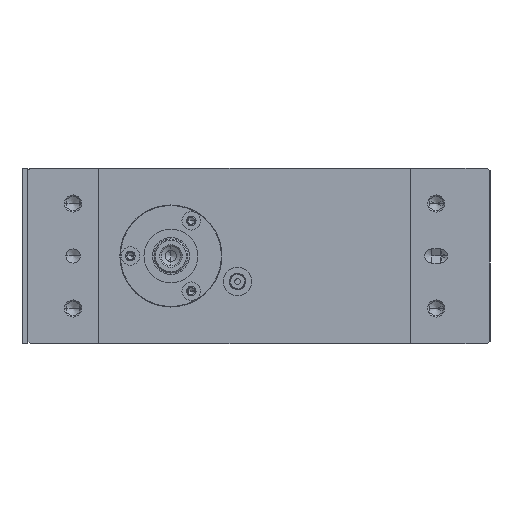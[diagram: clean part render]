
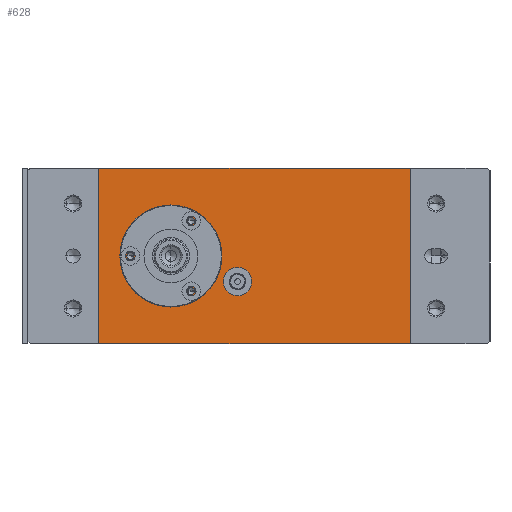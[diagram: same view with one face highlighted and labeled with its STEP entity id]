
A CAD part, left-side view. The second image highlights one B-rep face of the part: STEP entity #628.
In plain terms, the highlighted planar face has unit normal (-1, 0, 0) as drawn and (0, 0, 1) by its records, which use the part's own axes.
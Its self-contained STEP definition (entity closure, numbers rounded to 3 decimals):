
#302 = EDGE_CURVE ( 'NONE', #14896, #17192, #36362, .T. ) ;
#628 = ADVANCED_FACE ( 'NONE', ( #29366, #19516, #38304, #32899, #32497, #16833 ), #4283, .T. ) ;
#939 = CARTESIAN_POINT ( 'NONE',  ( -54.5, -11., -0.5 ) ) ;
#1182 = DIRECTION ( 'NONE',  ( 1., 0., 0. ) ) ;
#1550 = CARTESIAN_POINT ( 'NONE',  ( 30., -42., -0.5 ) ) ;
#1765 = VECTOR ( 'NONE', #26178, 1000. ) ;
#2152 = EDGE_CURVE ( 'NONE', #13228, #17721, #28742, .T. ) ;
#2585 = CARTESIAN_POINT ( 'NONE',  ( -67.25, -11., -0.5 ) ) ;
#3062 = EDGE_CURVE ( 'NONE', #40017, #21393, #21184, .T. ) ;
#3082 = CARTESIAN_POINT ( 'NONE',  ( -46.1, 1.384, -0.5 ) ) ;
#3098 = ORIENTED_EDGE ( 'NONE', *, *, #18748, .T. ) ;
#3479 = CARTESIAN_POINT ( 'NONE',  ( -80., -42., -0.5 ) ) ;
#3872 = DIRECTION ( 'NONE',  ( 0., 0., -1. ) ) ;
#4283 = PLANE ( 'NONE',  #34398 ) ;
#4522 = VERTEX_POINT ( 'NONE', #4665 ) ;
#4665 = CARTESIAN_POINT ( 'NONE',  ( 30., 20., -0.5 ) ) ;
#4681 = EDGE_CURVE ( 'NONE', #39959, #40017, #37221, .T. ) ;
#4689 = DIRECTION ( 'NONE',  ( 0., 0., 1. ) ) ;
#4771 = VERTEX_POINT ( 'NONE', #24403 ) ;
#5940 = DIRECTION ( 'NONE',  ( 1., 0., 0. ) ) ;
#5997 = EDGE_LOOP ( 'NONE', ( #16957, #32077 ) ) ;
#6005 = AXIS2_PLACEMENT_3D ( 'NONE', #33744, #9231, #5940 ) ;
#6201 = EDGE_CURVE ( 'NONE', #21393, #4522, #13458, .T. ) ;
#8450 = DIRECTION ( 'NONE',  ( 0., 0., -1. ) ) ;
#8765 = CARTESIAN_POINT ( 'NONE',  ( -68.8, -11., -0.5 ) ) ;
#8774 = CARTESIAN_POINT ( 'NONE',  ( -47.35, 1.384, -0.5 ) ) ;
#8905 = VERTEX_POINT ( 'NONE', #2585 ) ;
#9231 = DIRECTION ( 'NONE',  ( 0., 0., -1. ) ) ;
#9690 = EDGE_LOOP ( 'NONE', ( #30859, #3098 ) ) ;
#9784 = EDGE_CURVE ( 'NONE', #10659, #8905, #22693, .T. ) ;
#9917 = DIRECTION ( 'NONE',  ( 1., 0., 0. ) ) ;
#9987 = CARTESIAN_POINT ( 'NONE',  ( 30., 20., -0.5 ) ) ;
#10306 = CARTESIAN_POINT ( 'NONE',  ( -68.8, -11., -0.5 ) ) ;
#10659 = VERTEX_POINT ( 'NONE', #15090 ) ;
#11586 = ORIENTED_EDGE ( 'NONE', *, *, #19024, .T. ) ;
#11809 = VERTEX_POINT ( 'NONE', #18173 ) ;
#11965 = ORIENTED_EDGE ( 'NONE', *, *, #3062, .T. ) ;
#13118 = CARTESIAN_POINT ( 'NONE',  ( -31., -20., -0.5 ) ) ;
#13228 = VERTEX_POINT ( 'NONE', #31392 ) ;
#13458 = LINE ( 'NONE', #9987, #15196 ) ;
#13829 = EDGE_CURVE ( 'NONE', #8905, #10659, #31650, .T. ) ;
#14426 = EDGE_LOOP ( 'NONE', ( #21179, #11965, #17174, #28263 ) ) ;
#14839 = EDGE_CURVE ( 'NONE', #37891, #22232, #30971, .T. ) ;
#14896 = VERTEX_POINT ( 'NONE', #28332 ) ;
#14921 = DIRECTION ( 'NONE',  ( 0., 0., -1. ) ) ;
#15090 = CARTESIAN_POINT ( 'NONE',  ( -41.75, -11., -0.5 ) ) ;
#15196 = VECTOR ( 'NONE', #31381, 1000. ) ;
#15501 = CIRCLE ( 'NONE', #25343, 1.25 ) ;
#15574 = VECTOR ( 'NONE', #20972, 1000. ) ;
#15723 = VECTOR ( 'NONE', #18235, 1000. ) ;
#15829 = ORIENTED_EDGE ( 'NONE', *, *, #14839, .T. ) ;
#15950 = AXIS2_PLACEMENT_3D ( 'NONE', #10306, #16687, #9917 ) ;
#16115 = AXIS2_PLACEMENT_3D ( 'NONE', #37396, #24173, #33675 ) ;
#16442 = CARTESIAN_POINT ( 'NONE',  ( 0., 0., -0.5 ) ) ;
#16687 = DIRECTION ( 'NONE',  ( 0., 0., -1. ) ) ;
#16833 = FACE_BOUND ( 'NONE', #26023, .T. ) ;
#16957 = ORIENTED_EDGE ( 'NONE', *, *, #29194, .T. ) ;
#17174 = ORIENTED_EDGE ( 'NONE', *, *, #6201, .T. ) ;
#17192 = VERTEX_POINT ( 'NONE', #32240 ) ;
#17679 = CARTESIAN_POINT ( 'NONE',  ( -80., -42., -0.5 ) ) ;
#17721 = VERTEX_POINT ( 'NONE', #25373 ) ;
#18078 = CIRCLE ( 'NONE', #16115, 1.25 ) ;
#18083 = AXIS2_PLACEMENT_3D ( 'NONE', #24635, #27100, #34158 ) ;
#18173 = CARTESIAN_POINT ( 'NONE',  ( -46.1, -23.384, -0.5 ) ) ;
#18235 = DIRECTION ( 'NONE',  ( 0., -1., 0. ) ) ;
#18237 = CIRCLE ( 'NONE', #34717, 1.25 ) ;
#18748 = EDGE_CURVE ( 'NONE', #4771, #11809, #28573, .T. ) ;
#19024 = EDGE_CURVE ( 'NONE', #17192, #14896, #15501, .T. ) ;
#19516 = FACE_OUTER_BOUND ( 'NONE', #14426, .T. ) ;
#20077 = DIRECTION ( 'NONE',  ( 1., 0., 0. ) ) ;
#20453 = EDGE_CURVE ( 'NONE', #4522, #39959, #39623, .T. ) ;
#20972 = DIRECTION ( 'NONE',  ( 1., 0., 0. ) ) ;
#20992 = DIRECTION ( 'NONE',  ( 1., 0., 0. ) ) ;
#21179 = ORIENTED_EDGE ( 'NONE', *, *, #4681, .T. ) ;
#21184 = LINE ( 'NONE', #17679, #15574 ) ;
#21284 = ORIENTED_EDGE ( 'NONE', *, *, #35243, .T. ) ;
#21371 = AXIS2_PLACEMENT_3D ( 'NONE', #33471, #39478, #20077 ) ;
#21393 = VERTEX_POINT ( 'NONE', #1550 ) ;
#22232 = VERTEX_POINT ( 'NONE', #39584 ) ;
#22693 = CIRCLE ( 'NONE', #18083, 12.75 ) ;
#23173 = DIRECTION ( 'NONE',  ( 1., 0., 0. ) ) ;
#24173 = DIRECTION ( 'NONE',  ( 0., 0., -1. ) ) ;
#24403 = CARTESIAN_POINT ( 'NONE',  ( -48.6, -23.384, -0.5 ) ) ;
#24635 = CARTESIAN_POINT ( 'NONE',  ( -54.5, -11., -0.5 ) ) ;
#25343 = AXIS2_PLACEMENT_3D ( 'NONE', #8765, #14921, #30980 ) ;
#25373 = CARTESIAN_POINT ( 'NONE',  ( -26., -20., -0.5 ) ) ;
#26023 = EDGE_LOOP ( 'NONE', ( #11586, #35006 ) ) ;
#26178 = DIRECTION ( 'NONE',  ( -1., 0., 0. ) ) ;
#26775 = CARTESIAN_POINT ( 'NONE',  ( -80., 20., -0.5 ) ) ;
#27100 = DIRECTION ( 'NONE',  ( 0., 0., -1. ) ) ;
#27336 = CARTESIAN_POINT ( 'NONE',  ( -31., -20., -0.5 ) ) ;
#28263 = ORIENTED_EDGE ( 'NONE', *, *, #20453, .T. ) ;
#28305 = EDGE_CURVE ( 'NONE', #11809, #4771, #18078, .T. ) ;
#28332 = CARTESIAN_POINT ( 'NONE',  ( -70.05, -11., -0.5 ) ) ;
#28573 = CIRCLE ( 'NONE', #21371, 1.25 ) ;
#28643 = CIRCLE ( 'NONE', #37237, 5. ) ;
#28742 = CIRCLE ( 'NONE', #30720, 5. ) ;
#29194 = EDGE_CURVE ( 'NONE', #17721, #13228, #28643, .T. ) ;
#29366 = FACE_BOUND ( 'NONE', #31117, .T. ) ;
#30562 = DIRECTION ( 'NONE',  ( 0., 0., -1. ) ) ;
#30720 = AXIS2_PLACEMENT_3D ( 'NONE', #13118, #3872, #38695 ) ;
#30859 = ORIENTED_EDGE ( 'NONE', *, *, #28305, .T. ) ;
#30971 = CIRCLE ( 'NONE', #6005, 1.25 ) ;
#30980 = DIRECTION ( 'NONE',  ( 1., 0., 0. ) ) ;
#31117 = EDGE_LOOP ( 'NONE', ( #32533, #32887 ) ) ;
#31381 = DIRECTION ( 'NONE',  ( 0., 1., 0. ) ) ;
#31392 = CARTESIAN_POINT ( 'NONE',  ( -36., -20., -0.5 ) ) ;
#31650 = CIRCLE ( 'NONE', #40262, 12.75 ) ;
#32077 = ORIENTED_EDGE ( 'NONE', *, *, #2152, .T. ) ;
#32240 = CARTESIAN_POINT ( 'NONE',  ( -67.55, -11., -0.5 ) ) ;
#32497 = FACE_BOUND ( 'NONE', #34724, .T. ) ;
#32533 = ORIENTED_EDGE ( 'NONE', *, *, #9784, .T. ) ;
#32887 = ORIENTED_EDGE ( 'NONE', *, *, #13829, .T. ) ;
#32899 = FACE_BOUND ( 'NONE', #9690, .T. ) ;
#33069 = DIRECTION ( 'NONE',  ( 1., 0., 0. ) ) ;
#33471 = CARTESIAN_POINT ( 'NONE',  ( -47.35, -23.384, -0.5 ) ) ;
#33675 = DIRECTION ( 'NONE',  ( 1., 0., 0. ) ) ;
#33744 = CARTESIAN_POINT ( 'NONE',  ( -47.35, 1.384, -0.5 ) ) ;
#34158 = DIRECTION ( 'NONE',  ( 1., 0., 0. ) ) ;
#34398 = AXIS2_PLACEMENT_3D ( 'NONE', #16442, #4689, #1182 ) ;
#34717 = AXIS2_PLACEMENT_3D ( 'NONE', #8774, #30562, #33069 ) ;
#34724 = EDGE_LOOP ( 'NONE', ( #15829, #21284 ) ) ;
#35006 = ORIENTED_EDGE ( 'NONE', *, *, #302, .T. ) ;
#35243 = EDGE_CURVE ( 'NONE', #22232, #37891, #18237, .T. ) ;
#36362 = CIRCLE ( 'NONE', #15950, 1.25 ) ;
#37221 = LINE ( 'NONE', #40119, #15723 ) ;
#37237 = AXIS2_PLACEMENT_3D ( 'NONE', #27336, #8450, #20992 ) ;
#37396 = CARTESIAN_POINT ( 'NONE',  ( -47.35, -23.384, -0.5 ) ) ;
#37886 = CARTESIAN_POINT ( 'NONE',  ( -80., 20., -0.5 ) ) ;
#37891 = VERTEX_POINT ( 'NONE', #3082 ) ;
#38263 = DIRECTION ( 'NONE',  ( 0., 0., -1. ) ) ;
#38304 = FACE_BOUND ( 'NONE', #5997, .T. ) ;
#38695 = DIRECTION ( 'NONE',  ( 1., 0., 0. ) ) ;
#39478 = DIRECTION ( 'NONE',  ( 0., 0., -1. ) ) ;
#39584 = CARTESIAN_POINT ( 'NONE',  ( -48.6, 1.384, -0.5 ) ) ;
#39623 = LINE ( 'NONE', #26775, #1765 ) ;
#39959 = VERTEX_POINT ( 'NONE', #37886 ) ;
#40017 = VERTEX_POINT ( 'NONE', #3479 ) ;
#40119 = CARTESIAN_POINT ( 'NONE',  ( -80., 20., -0.5 ) ) ;
#40262 = AXIS2_PLACEMENT_3D ( 'NONE', #939, #38263, #23173 ) ;
